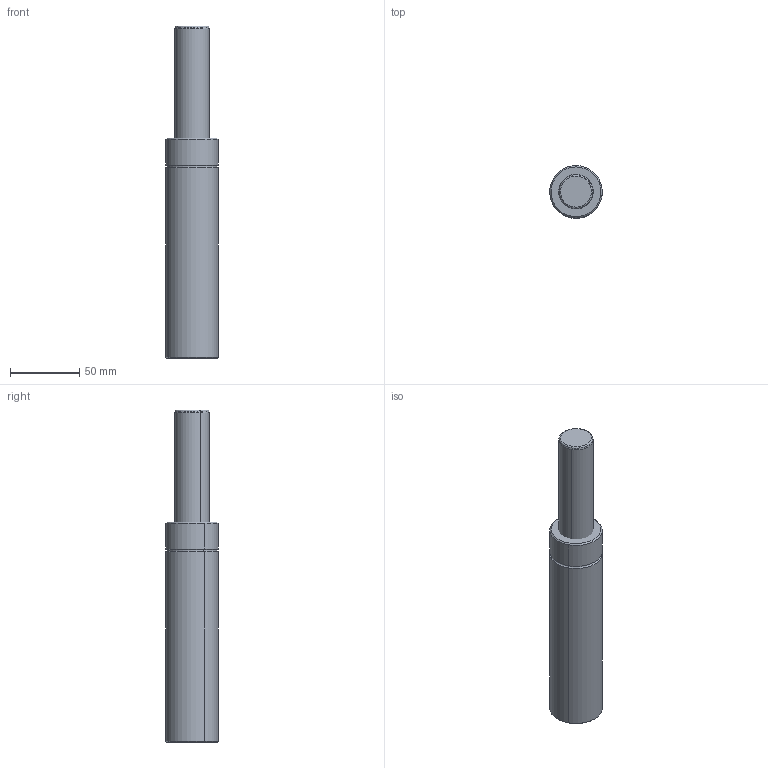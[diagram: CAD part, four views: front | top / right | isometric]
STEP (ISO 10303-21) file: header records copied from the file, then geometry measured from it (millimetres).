
FILE_DESCRIPTION(('CATIA V5 STEP Exchange'),'2;1');
FILE_NAME('W:\CATALOGO GENERAL 2018\FICHEROS CAD\003-TPH\TPH 1000\TPH1000x80.stp','2017-10-30T11:03:53+00:00',('none'),('none'),'CATIA Version 5 Release 17 (IN-10)','CATIA V5 STEP AP203','none');
FILE_SCHEMA(('CONFIG_CONTROL_DESIGN'));
Length unit declared in the file: millimetre
Products named in the file (1): TPH 1000x80
Assembly tree (2 placements, depth 2):
  TPH 1000x80
    #56
    #489
Bounding box: 37.99 x 37.99 x 240 mm (x, y, z)
Volume: 223983.2 mm3; surface area: 30296.6 mm2
Topology: 2 solids, 2 shells, 43 faces, 82 edges, 48 vertices
Faces by surface type: cylinder 16, torus 10, plane 9, cone 8
Entity records: 1016 total; most frequent: ORIENTED_EDGE 164, CARTESIAN_POINT 156, DIRECTION 134, AXIS2_PLACEMENT_3D 84, EDGE_CURVE 82, CIRCLE 58, EDGE_LOOP 48, VERTEX_POINT 48
